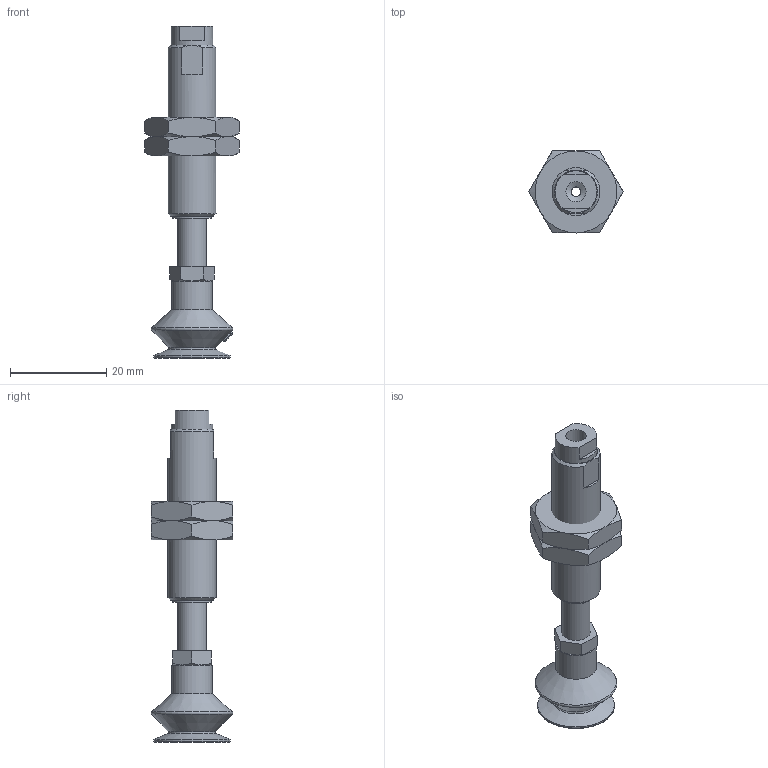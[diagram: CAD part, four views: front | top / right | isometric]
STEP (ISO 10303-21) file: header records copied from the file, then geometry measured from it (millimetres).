
FILE_DESCRIPTION(('STEP AP203'),'1');
FILE_NAME('-LB.stp','2025-04-02T02:31:44',(' '),(' '),'Spatial InterOp 3D',' ',' ');
FILE_SCHEMA(('CONFIG_CONTROL_DESIGN'));
Length unit declared in the file: millimetre
Products named in the file (10): BNABPBTH-15A-10-※-LB; __; BODY; NUT; TN-PS-10-M5; Setting screws-TN-PS-10-M5; BPBG-15A-※; __27; BPBG-15A
Assembly tree (9 placements, depth 3):
  BNABPBTH-15A-10-※-LB
    __
    BODY
    NUT
    NUT
    TN-PS-10-M5
      Setting screws-TN-PS-10-M5
    BPBG-15A-※
      __27
      BPBG-15A
Bounding box: 19.63 x 17 x 69 mm (x, y, z)
Volume: 6137.1 mm3; surface area: 5086.4 mm2
Topology: 7 solids, 7 shells, 141 faces, 303 edges, 185 vertices
Faces by surface type: plane 59, cone 45, cylinder 19, torus 10, bspline 8
Full cylindrical faces by diameter (mm): 2 x2, 3.9 x1, 4 x3, 4.2 x2, 5 x1, 6 x3, 8 x1, 8.5 x1, 8.7 x1, 9 x2, 10 x1, 16 x1
Entity records: 5231 total; most frequent: CARTESIAN_POINT 1991, DIRECTION 563, ORIENTED_EDGE 504, EDGE_CURVE 252, AXIS2_PLACEMENT_3D 247, EDGE_LOOP 201, VERTEX_POINT 173, FACE_OUTER_BOUND 170
